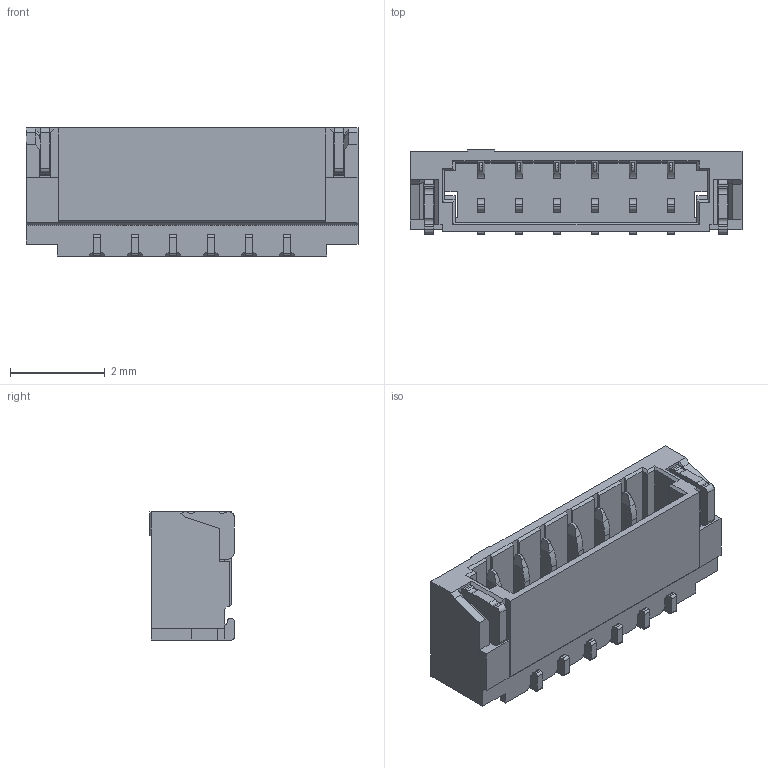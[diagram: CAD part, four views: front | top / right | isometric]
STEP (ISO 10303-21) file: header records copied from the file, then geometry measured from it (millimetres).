
FILE_DESCRIPTION((''),'2;1');
FILE_NAME('SCT0800WRS-06','2023-04-10T15:48:07',('Administrator'),(''),'CREO PARAMETRIC BY PTC INC, 2018050','CREO PARAMETRIC BY PTC INC, 2018050','');
FILE_SCHEMA(('CONFIG_CONTROL_DESIGN'));
Length unit declared in the file: millimetre
Products named in the file (1): SCT0800WRS-06
Bounding box: 7 x 1.78 x 2.7 mm (x, y, z)
Volume: 18.7 mm3; surface area: 133.6 mm2
Topology: 1 solids, 1 shells, 554 faces, 1741 edges, 1120 vertices
Faces by surface type: plane 374, cylinder 180
Entity records: 19530 total; most frequent: CARTESIAN_POINT 3806, ORIENTED_EDGE 3482, DIRECTION 3099, EDGE_CURVE 1741, VECTOR 1367, LINE 1367, VERTEX_POINT 1120, AXIS2_PLACEMENT_3D 866
